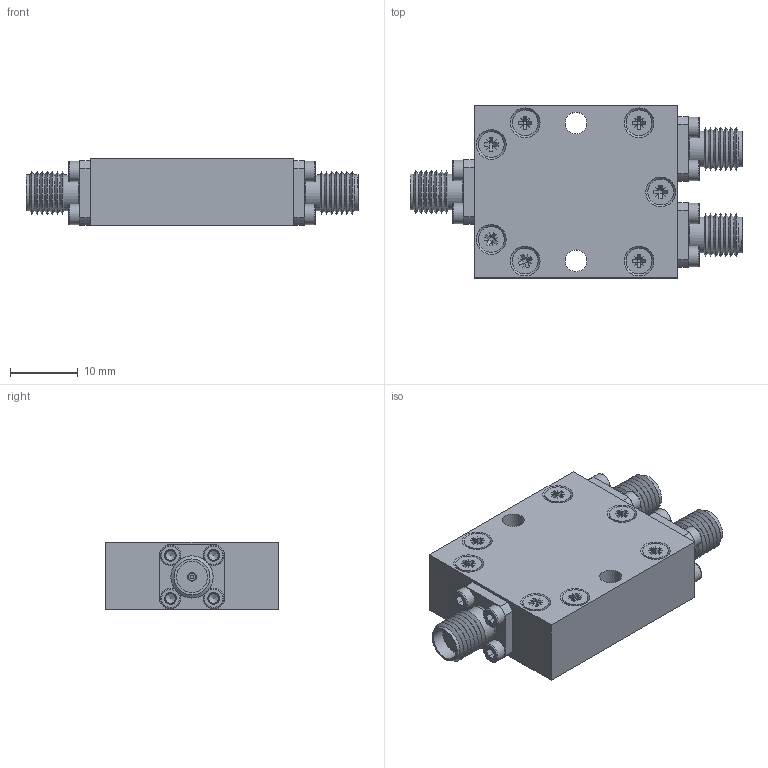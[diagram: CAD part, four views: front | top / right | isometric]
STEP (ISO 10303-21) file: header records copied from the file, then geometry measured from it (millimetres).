
FILE_DESCRIPTION(/* description */ ('Unknown'),/* implementation_level */ '2;1');
FILE_NAME(/* name */ 'DETI_MICROWAVE_2-WAY_POWER_DIVIDER_011191_STEP',/* time_stamp */ '2021-06-30T14:23:53+02:00',/* author */ ('ALG'),/* organization */ ('DETI'),/* preprocessor_version */ 'ST-DEVELOPER v16.7',/* originating_system */ 'Solid Edge',/* authorisation */ 'Unknown');
FILE_SCHEMA (('AUTOMOTIVE_DESIGN {1 0 10303 214 3 1 1}'));
Length unit declared in the file: millimetre
Products named in the file (1): DI-2-132
Bounding box: 49 x 25.4 x 10 mm (x, y, z)
Volume: 8404.9 mm3; surface area: 4708.6 mm2
Topology: 1 solids, 33 shells, 631 faces, 1552 edges, 1016 vertices
Faces by surface type: plane 379, cone 109, cylinder 109, torus 34
Full cylindrical faces by diameter (mm): 0.47 x3, 1.1 x3, 1.221 x12, 1.27 x6, 1.6 x12, 1.8 x12, 2 x7, 2.2 x7, 3 x12, 3.2 x2, 3.8 x7, 4.1 x3, 4.6 x3, 5.3 x6
Entity records: 20735 total; most frequent: CARTESIAN_POINT 2952, DIRECTION 2702, ORIENTED_EDGE 2390, EDGE_CURVE 1195, FACE_BOUND 966, AXIS2_PLACEMENT_3D 955, EDGE_LOOP 944, VERTEX_POINT 917
